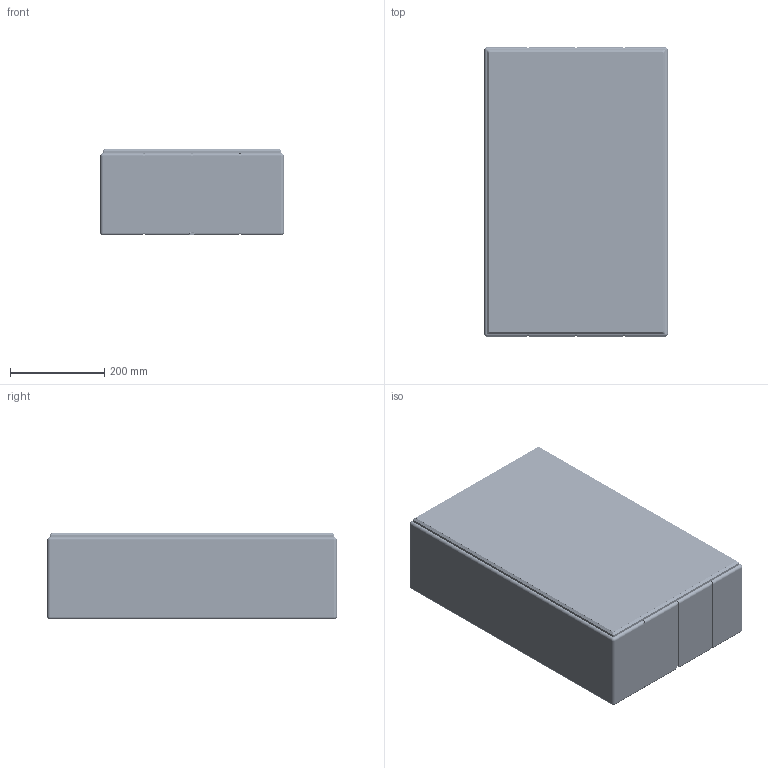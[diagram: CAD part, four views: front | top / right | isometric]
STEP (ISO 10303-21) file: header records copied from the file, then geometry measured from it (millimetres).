
FILE_DESCRIPTION(/* description */ ('','CAx-IF Rec.Pracs.---Representation and Presentation of Product Manufacturing Information (PMI)---4.0---2014-10-13'),/* implementation_level */ '2;1');
FILE_NAME(/* name */ 'THE12 PASSIVE ON WALL.step',/* time_stamp */ '2024-12-20T15:29:47+01:00',/* author */ (''),/* organization */ (''),/* preprocessor_version */ 'ST-DEVELOPER v20',/* originating_system */ 'Autodesk Translation Framework v13.20.0.188',/* authorisation */ '');
FILE_SCHEMA (('AP242_MANAGED_MODEL_BASED_3D_ENGINEERING_MIM_LF { 1 0 10303 442 1 1 4 }'));
Products named in the file (3): The12 PASSIVE ON WALL; COMBINE_SpeakerBox; COMBINE_Grille
Assembly tree (2 placements, depth 2):
  The12 PASSIVE ON WALL
    COMBINE_SpeakerBox
    COMBINE_Grille
Bounding box: 390 x 615 x 184.6 mm (x, y, z)
Volume: 13599738.1 mm3; surface area: 2869461.5 mm2
Topology: 10 solids, 11 shells, 5086 faces, 13846 edges, 9003 vertices
Faces by surface type: plane 2322, cylinder 1347, bspline 783, cone 431, torus 183, sphere 20
Full cylindrical faces by diameter (mm): 2 x4, 2.15 x4, 2.5 x22, 3 x4, 3.2 x6, 3.5 x96, 3.8 x2, 4 x29, 4.2 x10, 4.3 x8, 4.5 x7, 5 x94, 5.7 x4, 6 x102, 6.8 x24, 6.9 x2, 7 x10, 7.3 x4, 8.2 x4, 8.5 x4, 8.53 x4, 8.692 x1, 9.5 x2, 10 x16, 10.3 x16, 11 x1, 11.3 x8, 12 x4, 35 x4, 36 x1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
Entity records: 614709 total; most frequent: CARTESIAN_POINT 489104, ORIENTED_EDGE 27598, DIRECTION 24195, EDGE_CURVE 13799, VERTEX_POINT 8999, AXIS2_PLACEMENT_3D 8706, LINE 6783, VECTOR 6783
